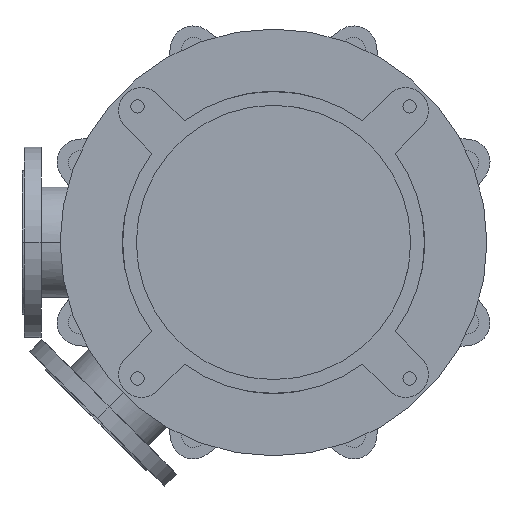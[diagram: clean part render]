
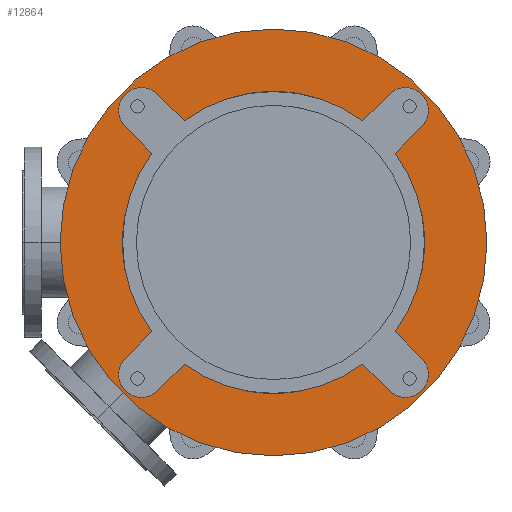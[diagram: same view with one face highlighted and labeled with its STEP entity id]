
A CAD part, front view. The second image highlights one B-rep face of the part: STEP entity #12864.
In plain terms, the highlighted planar face has unit normal (0, -1, 0).
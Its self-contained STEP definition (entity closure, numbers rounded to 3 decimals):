
#2492=CARTESIAN_POINT('',(0.,-25.,0.));
#2493=DIRECTION('',(0.,1.,0.));
#2494=DIRECTION('',(0.592,0.,-0.806));
#2495=AXIS2_PLACEMENT_3D('',#2492,#2493,#2494);
#2510=CARTESIAN_POINT('',(0.,-25.,0.));
#2511=DIRECTION('',(0.,1.,0.));
#2512=DIRECTION('',(0.806,0.,0.592));
#2513=AXIS2_PLACEMENT_3D('',#2510,#2511,#2512);
#2537=CARTESIAN_POINT('',(0.,-25.,0.));
#2538=DIRECTION('',(0.,1.,0.));
#2539=DIRECTION('',(-0.806,0.,-0.592));
#2540=AXIS2_PLACEMENT_3D('',#2537,#2538,#2539);
#2546=CARTESIAN_POINT('',(0.,-25.,0.));
#2547=DIRECTION('',(0.,1.,0.));
#2548=DIRECTION('',(-0.592,0.,0.806));
#2549=AXIS2_PLACEMENT_3D('',#2546,#2547,#2548);
#2724=CARTESIAN_POINT('',(0.,-25.,0.));
#2725=DIRECTION('',(0.,-1.,0.));
#2726=DIRECTION('',(-1.,0.,0.));
#2727=AXIS2_PLACEMENT_3D('',#2724,#2725,#2726);
#2729=CARTESIAN_POINT('',(0.,-25.,0.));
#2730=DIRECTION('',(0.,1.,0.));
#2731=DIRECTION('',(-1.,0.,0.));
#2732=AXIS2_PLACEMENT_3D('',#2729,#2730,#2731);
#2734=CARTESIAN_POINT('',(-173.241,-25.,173.241));
#2735=DIRECTION('',(0.,-1.,0.));
#2736=DIRECTION('',(0.707,0.,0.707));
#2737=AXIS2_PLACEMENT_3D('',#2734,#2735,#2736);
#2739=DIRECTION('',(0.707,0.,-0.707));
#2740=VECTOR('',#2739,49.286);
#2741=CARTESIAN_POINT('',(-194.454,-25.,152.028));
#2742=LINE('',#2741,#2740);
#2743=DIRECTION('',(-0.707,0.,-0.707));
#2744=VECTOR('',#2743,49.286);
#2745=CARTESIAN_POINT('',(-159.604,-25.,-117.178));
#2746=LINE('',#2745,#2744);
#2747=CARTESIAN_POINT('',(-173.241,-25.,-173.241));
#2748=DIRECTION('',(0.,-1.,0.));
#2749=DIRECTION('',(-0.707,0.,0.707));
#2750=AXIS2_PLACEMENT_3D('',#2747,#2748,#2749);
#2752=DIRECTION('',(0.707,0.,0.707));
#2753=VECTOR('',#2752,49.286);
#2754=CARTESIAN_POINT('',(-152.028,-25.,-194.454));
#2755=LINE('',#2754,#2753);
#2756=DIRECTION('',(0.707,0.,-0.707));
#2757=VECTOR('',#2756,49.286);
#2758=CARTESIAN_POINT('',(117.178,-25.,-159.604));
#2759=LINE('',#2758,#2757);
#2760=CARTESIAN_POINT('',(173.241,-25.,-173.241));
#2761=DIRECTION('',(0.,-1.,0.));
#2762=DIRECTION('',(-0.707,0.,-0.707));
#2763=AXIS2_PLACEMENT_3D('',#2760,#2761,#2762);
#2765=DIRECTION('',(-0.707,0.,0.707));
#2766=VECTOR('',#2765,49.286);
#2767=CARTESIAN_POINT('',(194.454,-25.,-152.028));
#2768=LINE('',#2767,#2766);
#2769=DIRECTION('',(0.707,0.,0.707));
#2770=VECTOR('',#2769,49.286);
#2771=CARTESIAN_POINT('',(159.604,-25.,117.178));
#2772=LINE('',#2771,#2770);
#2773=CARTESIAN_POINT('',(173.241,-25.,173.241));
#2774=DIRECTION('',(0.,-1.,0.));
#2775=DIRECTION('',(0.707,0.,-0.707));
#2776=AXIS2_PLACEMENT_3D('',#2773,#2774,#2775);
#2778=DIRECTION('',(-0.707,0.,-0.707));
#2779=VECTOR('',#2778,49.286);
#2780=CARTESIAN_POINT('',(152.028,-25.,194.454));
#2781=LINE('',#2780,#2779);
#2782=DIRECTION('',(-0.707,0.,0.707));
#2783=VECTOR('',#2782,49.286);
#2784=CARTESIAN_POINT('',(-117.178,-25.,159.604));
#2785=LINE('',#2784,#2783);
#8391=CARTESIAN_POINT('',(-280.,-25.,0.));
#8392=CARTESIAN_POINT('',(280.,-25.,0.));
#8393=VERTEX_POINT('',#8391);
#8394=VERTEX_POINT('',#8392);
#8415=CARTESIAN_POINT('',(-194.454,-25.,-152.028));
#8416=CARTESIAN_POINT('',(-152.028,-25.,-194.454));
#8417=VERTEX_POINT('',#8415);
#8418=VERTEX_POINT('',#8416);
#8419=CARTESIAN_POINT('',(-117.178,-25.,-159.604));
#8420=VERTEX_POINT('',#8419);
#8421=CARTESIAN_POINT('',(-159.604,-25.,-117.178));
#8422=VERTEX_POINT('',#8421);
#8431=CARTESIAN_POINT('',(152.028,-25.,-194.454));
#8432=CARTESIAN_POINT('',(194.454,-25.,-152.028));
#8433=VERTEX_POINT('',#8431);
#8434=VERTEX_POINT('',#8432);
#8435=CARTESIAN_POINT('',(159.604,-25.,-117.178));
#8436=VERTEX_POINT('',#8435);
#8437=CARTESIAN_POINT('',(117.178,-25.,-159.604));
#8438=VERTEX_POINT('',#8437);
#8447=CARTESIAN_POINT('',(194.454,-25.,152.028));
#8448=CARTESIAN_POINT('',(152.028,-25.,194.454));
#8449=VERTEX_POINT('',#8447);
#8450=VERTEX_POINT('',#8448);
#8451=CARTESIAN_POINT('',(117.178,-25.,159.604));
#8452=VERTEX_POINT('',#8451);
#8453=CARTESIAN_POINT('',(159.604,-25.,117.178));
#8454=VERTEX_POINT('',#8453);
#8463=CARTESIAN_POINT('',(-152.028,-25.,194.454));
#8464=CARTESIAN_POINT('',(-194.454,-25.,152.028));
#8465=VERTEX_POINT('',#8463);
#8466=VERTEX_POINT('',#8464);
#8467=CARTESIAN_POINT('',(-159.604,-25.,117.178));
#8468=VERTEX_POINT('',#8467);
#8469=CARTESIAN_POINT('',(-117.178,-25.,159.604));
#8470=VERTEX_POINT('',#8469);
#12824=CARTESIAN_POINT('',(0.,-25.,0.));
#12825=DIRECTION('',(0.,-1.,0.));
#12826=DIRECTION('',(-1.,0.,0.));
#12827=AXIS2_PLACEMENT_3D('',#12824,#12825,#12826);
#12828=PLANE('',#12827);
#12830=ORIENTED_EDGE('',*,*,#12829,.F.);
#12832=ORIENTED_EDGE('',*,*,#12831,.T.);
#12833=EDGE_LOOP('',(#12830,#12832));
#12834=FACE_OUTER_BOUND('',#12833,.F.);
#12836=ORIENTED_EDGE('',*,*,#12835,.T.);
#12838=ORIENTED_EDGE('',*,*,#12837,.T.);
#12839=ORIENTED_EDGE('',*,*,#12777,.F.);
#12841=ORIENTED_EDGE('',*,*,#12840,.T.);
#12843=ORIENTED_EDGE('',*,*,#12842,.T.);
#12845=ORIENTED_EDGE('',*,*,#12844,.T.);
#12846=ORIENTED_EDGE('',*,*,#12730,.F.);
#12847=ORIENTED_EDGE('',*,*,#12814,.T.);
#12849=ORIENTED_EDGE('',*,*,#12848,.T.);
#12851=ORIENTED_EDGE('',*,*,#12850,.T.);
#12852=ORIENTED_EDGE('',*,*,#12751,.F.);
#12854=ORIENTED_EDGE('',*,*,#12853,.T.);
#12856=ORIENTED_EDGE('',*,*,#12855,.T.);
#12858=ORIENTED_EDGE('',*,*,#12857,.T.);
#12859=ORIENTED_EDGE('',*,*,#12795,.F.);
#12861=ORIENTED_EDGE('',*,*,#12860,.T.);
#12862=EDGE_LOOP('',(#12836,#12838,#12839,#12841,#12843,#12845,#12846,#12847,
#12849,#12851,#12852,#12854,#12856,#12858,#12859,#12861));
#12863=FACE_BOUND('',#12862,.F.);
#12864=ADVANCED_FACE('',(#12834,#12863),#12828,.T.);
#2496=CIRCLE('',#2495,198.);
#2514=CIRCLE('',#2513,198.);
#2541=CIRCLE('',#2540,198.);
#2550=CIRCLE('',#2549,198.);
#2728=CIRCLE('',#2727,280.);
#2733=CIRCLE('',#2732,280.);
#2738=CIRCLE('',#2737,30.);
#2751=CIRCLE('',#2750,30.);
#2764=CIRCLE('',#2763,30.);
#2777=CIRCLE('',#2776,30.);
#12730=EDGE_CURVE('',#8438,#8420,#2496,.T.);
#12751=EDGE_CURVE('',#8454,#8436,#2514,.T.);
#12777=EDGE_CURVE('',#8422,#8468,#2541,.T.);
#12795=EDGE_CURVE('',#8470,#8452,#2550,.T.);
#12814=EDGE_CURVE('',#8438,#8433,#2759,.T.);
#12829=EDGE_CURVE('',#8393,#8394,#2728,.T.);
#12831=EDGE_CURVE('',#8393,#8394,#2733,.T.);
#12835=EDGE_CURVE('',#8465,#8466,#2738,.T.);
#12837=EDGE_CURVE('',#8466,#8468,#2742,.T.);
#12840=EDGE_CURVE('',#8422,#8417,#2746,.T.);
#12842=EDGE_CURVE('',#8417,#8418,#2751,.T.);
#12844=EDGE_CURVE('',#8418,#8420,#2755,.T.);
#12848=EDGE_CURVE('',#8433,#8434,#2764,.T.);
#12850=EDGE_CURVE('',#8434,#8436,#2768,.T.);
#12853=EDGE_CURVE('',#8454,#8449,#2772,.T.);
#12855=EDGE_CURVE('',#8449,#8450,#2777,.T.);
#12857=EDGE_CURVE('',#8450,#8452,#2781,.T.);
#12860=EDGE_CURVE('',#8470,#8465,#2785,.T.);
